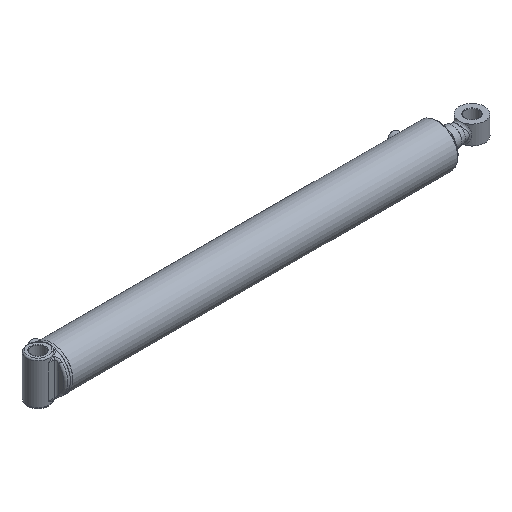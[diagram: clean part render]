
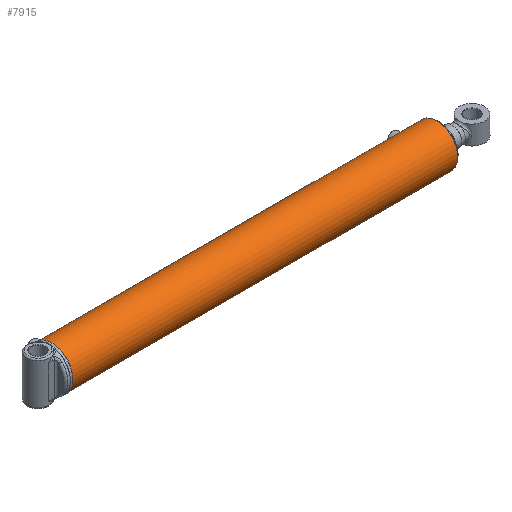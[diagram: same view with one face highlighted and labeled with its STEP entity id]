
A CAD part, isometric view. The second image highlights one B-rep face of the part: STEP entity #7915.
In plain terms, the highlighted cylindrical face has radius 49.212 mm (diameter 98.425 mm), a full revolution.
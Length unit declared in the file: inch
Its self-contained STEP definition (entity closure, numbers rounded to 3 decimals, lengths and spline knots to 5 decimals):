
#653=B_SPLINE_CURVE_WITH_KNOTS('',3,(#11899,#11900,#11901,#11902,#11903,
#11904,#11905,#11906,#11907,#11908),.UNSPECIFIED.,.F.,.F.,(4,2,2,2,4),(0.,
0.17952,0.35904,0.53855,0.71807),
 .UNSPECIFIED.);
#654=B_SPLINE_CURVE_WITH_KNOTS('',3,(#11909,#11910,#11911,#11912,#11913,
#11914,#11915,#11916,#11917,#11918,#11919,#11920,#11921,#11922,#11923,#11924,
#11925,#11926,#11927,#11928,#11929,#11930,#11931,#11932,#11933,#11934),
 .UNSPECIFIED.,.F.,.F.,(4,2,2,2,2,2,2,2,2,2,2,2,4),(0.71807,0.89759,
1.07711,1.25662,1.43614,1.61566,1.79518,
1.97469,2.15421,2.33373,2.51325,2.69276,
2.87228),.UNSPECIFIED.);
#655=B_SPLINE_CURVE_WITH_KNOTS('',3,(#11939,#11940,#11941,#11942,#11943,
#11944,#11945,#11946,#11947,#11948),.UNSPECIFIED.,.F.,.F.,(4,2,2,2,4),(0.,
0.17952,0.35904,0.53855,0.71807),
 .UNSPECIFIED.);
#656=B_SPLINE_CURVE_WITH_KNOTS('',3,(#11949,#11950,#11951,#11952,#11953,
#11954,#11955,#11956,#11957,#11958,#11959,#11960,#11961,#11962,#11963,#11964,
#11965,#11966,#11967,#11968,#11969,#11970,#11971,#11972,#11973,#11974),
 .UNSPECIFIED.,.F.,.F.,(4,2,2,2,2,2,2,2,2,2,2,2,4),(0.71807,0.89759,
1.07711,1.25662,1.43614,1.61566,1.79518,
1.97469,2.15421,2.33373,2.51325,2.69276,
2.87228),.UNSPECIFIED.);
#962=FACE_BOUND('',#2484,.T.);
#963=FACE_BOUND('',#2485,.T.);
#1244=LINE('',#12002,#1570);
#1570=VECTOR('',#9736,1.9375);
#1893=CYLINDRICAL_SURFACE('',#8765,1.9375);
#1987=FACE_OUTER_BOUND('',#2483,.T.);
#2483=EDGE_LOOP('',(#5553,#5554,#5555,#5556,#5557,#5558));
#2484=EDGE_LOOP('',(#5559,#5560));
#2485=EDGE_LOOP('',(#5561,#5562));
#3065=CIRCLE('',#8762,1.9375);
#3067=CIRCLE('',#8764,1.9375);
#3068=CIRCLE('',#8766,1.9375);
#3069=CIRCLE('',#8767,1.9375);
#3547=VERTEX_POINT('',#11896);
#3548=VERTEX_POINT('',#11898);
#3549=VERTEX_POINT('',#11936);
#3550=VERTEX_POINT('',#11938);
#3557=VERTEX_POINT('',#11995);
#3558=VERTEX_POINT('',#11996);
#3559=VERTEX_POINT('',#12001);
#3560=VERTEX_POINT('',#12003);
#4319=EDGE_CURVE('',#3548,#3547,#653,.T.);
#4320=EDGE_CURVE('',#3547,#3548,#654,.T.);
#4322=EDGE_CURVE('',#3550,#3549,#655,.T.);
#4323=EDGE_CURVE('',#3549,#3550,#656,.T.);
#4333=EDGE_CURVE('',#3557,#3558,#3065,.T.);
#4335=EDGE_CURVE('',#3558,#3557,#3067,.T.);
#4336=EDGE_CURVE('',#3557,#3559,#1244,.T.);
#4337=EDGE_CURVE('',#3560,#3559,#3068,.T.);
#4338=EDGE_CURVE('',#3559,#3560,#3069,.T.);
#5553=ORIENTED_EDGE('',*,*,#4333,.F.);
#5554=ORIENTED_EDGE('',*,*,#4336,.T.);
#5555=ORIENTED_EDGE('',*,*,#4337,.F.);
#5556=ORIENTED_EDGE('',*,*,#4338,.F.);
#5557=ORIENTED_EDGE('',*,*,#4336,.F.);
#5558=ORIENTED_EDGE('',*,*,#4335,.F.);
#5559=ORIENTED_EDGE('',*,*,#4319,.T.);
#5560=ORIENTED_EDGE('',*,*,#4320,.T.);
#5561=ORIENTED_EDGE('',*,*,#4322,.T.);
#5562=ORIENTED_EDGE('',*,*,#4323,.T.);
#7915=ADVANCED_FACE('',(#1987,#962,#963),#1893,.T.);
#8762=AXIS2_PLACEMENT_3D('',#11997,#9728,#9729);
#8764=AXIS2_PLACEMENT_3D('',#11999,#9732,#9733);
#8765=AXIS2_PLACEMENT_3D('',#12000,#9734,#9735);
#8766=AXIS2_PLACEMENT_3D('',#12004,#9737,#9738);
#8767=AXIS2_PLACEMENT_3D('',#12005,#9739,#9740);
#9728=DIRECTION('center_axis',(1.,0.,0.));
#9729=DIRECTION('ref_axis',(0.,-1.,0.));
#9732=DIRECTION('center_axis',(1.,0.,0.));
#9733=DIRECTION('ref_axis',(0.,-1.,0.));
#9734=DIRECTION('center_axis',(1.,0.,0.));
#9735=DIRECTION('ref_axis',(0.,-1.,0.));
#9736=DIRECTION('',(-1.,0.,0.));
#9737=DIRECTION('center_axis',(-1.,0.,0.));
#9738=DIRECTION('ref_axis',(0.,-1.,0.));
#9739=DIRECTION('center_axis',(-1.,0.,0.));
#9740=DIRECTION('ref_axis',(0.,-1.,0.));
#11896=CARTESIAN_POINT('',(0.7225,0.,1.9375));
#11898=CARTESIAN_POINT('',(0.91,-0.1875,1.92841));
#11899=CARTESIAN_POINT('Ctrl Pts',(0.91,-0.1875,1.92841));
#11900=CARTESIAN_POINT('Ctrl Pts',(0.88644,-0.1875,1.92841));
#11901=CARTESIAN_POINT('Ctrl Pts',(0.86132,-0.18279,
1.92888));
#11902=CARTESIAN_POINT('Ctrl Pts',(0.81513,-0.16365,
1.9306));
#11903=CARTESIAN_POINT('Ctrl Pts',(0.79406,-0.14922,
1.93182));
#11904=CARTESIAN_POINT('Ctrl Pts',(0.76078,-0.11594,
1.9341));
#11905=CARTESIAN_POINT('Ctrl Pts',(0.74635,-0.09487,
1.93531));
#11906=CARTESIAN_POINT('Ctrl Pts',(0.72721,-0.04868,
1.93703));
#11907=CARTESIAN_POINT('Ctrl Pts',(0.7225,-0.02356,1.9375));
#11908=CARTESIAN_POINT('Ctrl Pts',(0.7225,0.,1.9375));
#11909=CARTESIAN_POINT('Ctrl Pts',(0.7225,0.,1.9375));
#11910=CARTESIAN_POINT('Ctrl Pts',(0.7225,0.02356,1.9375));
#11911=CARTESIAN_POINT('Ctrl Pts',(0.72721,0.04868,
1.93703));
#11912=CARTESIAN_POINT('Ctrl Pts',(0.74635,0.09487,
1.93531));
#11913=CARTESIAN_POINT('Ctrl Pts',(0.76078,0.11594,
1.9341));
#11914=CARTESIAN_POINT('Ctrl Pts',(0.79406,0.14922,
1.93182));
#11915=CARTESIAN_POINT('Ctrl Pts',(0.81513,0.16365,
1.9306));
#11916=CARTESIAN_POINT('Ctrl Pts',(0.86132,0.18279,
1.92888));
#11917=CARTESIAN_POINT('Ctrl Pts',(0.88644,0.1875,1.92841));
#11918=CARTESIAN_POINT('Ctrl Pts',(0.93356,0.1875,1.92841));
#11919=CARTESIAN_POINT('Ctrl Pts',(0.95868,0.18279,
1.92888));
#11920=CARTESIAN_POINT('Ctrl Pts',(1.00487,0.16365,1.9306));
#11921=CARTESIAN_POINT('Ctrl Pts',(1.02594,0.14922,1.93182));
#11922=CARTESIAN_POINT('Ctrl Pts',(1.05922,0.11594,1.9341));
#11923=CARTESIAN_POINT('Ctrl Pts',(1.07365,0.09487,
1.93531));
#11924=CARTESIAN_POINT('Ctrl Pts',(1.09279,0.04868,
1.93703));
#11925=CARTESIAN_POINT('Ctrl Pts',(1.0975,0.02356,1.9375));
#11926=CARTESIAN_POINT('Ctrl Pts',(1.0975,-0.02356,1.9375));
#11927=CARTESIAN_POINT('Ctrl Pts',(1.09279,-0.04868,
1.93703));
#11928=CARTESIAN_POINT('Ctrl Pts',(1.07365,-0.09487,
1.93531));
#11929=CARTESIAN_POINT('Ctrl Pts',(1.05922,-0.11594,
1.9341));
#11930=CARTESIAN_POINT('Ctrl Pts',(1.02594,-0.14922,
1.93182));
#11931=CARTESIAN_POINT('Ctrl Pts',(1.00487,-0.16365,
1.9306));
#11932=CARTESIAN_POINT('Ctrl Pts',(0.95868,-0.18279,
1.92888));
#11933=CARTESIAN_POINT('Ctrl Pts',(0.93356,-0.1875,1.92841));
#11934=CARTESIAN_POINT('Ctrl Pts',(0.91,-0.1875,1.92841));
#11936=CARTESIAN_POINT('',(33.9425,0.,1.9375));
#11938=CARTESIAN_POINT('',(34.13,-0.1875,1.92841));
#11939=CARTESIAN_POINT('Ctrl Pts',(34.13,-0.1875,1.92841));
#11940=CARTESIAN_POINT('Ctrl Pts',(34.10644,-0.1875,
1.92841));
#11941=CARTESIAN_POINT('Ctrl Pts',(34.08132,-0.18279,
1.92888));
#11942=CARTESIAN_POINT('Ctrl Pts',(34.03513,-0.16365,1.9306));
#11943=CARTESIAN_POINT('Ctrl Pts',(34.01406,-0.14922,1.93182));
#11944=CARTESIAN_POINT('Ctrl Pts',(33.98078,-0.11594,
1.9341));
#11945=CARTESIAN_POINT('Ctrl Pts',(33.96635,-0.09487,
1.93531));
#11946=CARTESIAN_POINT('Ctrl Pts',(33.94721,-0.04868,
1.93703));
#11947=CARTESIAN_POINT('Ctrl Pts',(33.9425,-0.02356,1.9375));
#11948=CARTESIAN_POINT('Ctrl Pts',(33.9425,0.,1.9375));
#11949=CARTESIAN_POINT('Ctrl Pts',(33.9425,0.,1.9375));
#11950=CARTESIAN_POINT('Ctrl Pts',(33.9425,0.02356,1.9375));
#11951=CARTESIAN_POINT('Ctrl Pts',(33.94721,0.04868,
1.93703));
#11952=CARTESIAN_POINT('Ctrl Pts',(33.96635,0.09487,1.93531));
#11953=CARTESIAN_POINT('Ctrl Pts',(33.98078,0.11594,1.9341));
#11954=CARTESIAN_POINT('Ctrl Pts',(34.01406,0.14922,1.93182));
#11955=CARTESIAN_POINT('Ctrl Pts',(34.03513,0.16365,1.9306));
#11956=CARTESIAN_POINT('Ctrl Pts',(34.08132,0.18279,1.92888));
#11957=CARTESIAN_POINT('Ctrl Pts',(34.10644,0.1875,1.92841));
#11958=CARTESIAN_POINT('Ctrl Pts',(34.15356,0.1875,1.92841));
#11959=CARTESIAN_POINT('Ctrl Pts',(34.17868,0.18279,1.92888));
#11960=CARTESIAN_POINT('Ctrl Pts',(34.22487,0.16365,1.9306));
#11961=CARTESIAN_POINT('Ctrl Pts',(34.24594,0.14922,1.93182));
#11962=CARTESIAN_POINT('Ctrl Pts',(34.27922,0.11594,1.9341));
#11963=CARTESIAN_POINT('Ctrl Pts',(34.29365,0.09487,1.93531));
#11964=CARTESIAN_POINT('Ctrl Pts',(34.31279,0.04868,
1.93703));
#11965=CARTESIAN_POINT('Ctrl Pts',(34.3175,0.02356,1.9375));
#11966=CARTESIAN_POINT('Ctrl Pts',(34.3175,-0.02356,1.9375));
#11967=CARTESIAN_POINT('Ctrl Pts',(34.31279,-0.04868,
1.93703));
#11968=CARTESIAN_POINT('Ctrl Pts',(34.29365,-0.09487,
1.93531));
#11969=CARTESIAN_POINT('Ctrl Pts',(34.27922,-0.11594,
1.9341));
#11970=CARTESIAN_POINT('Ctrl Pts',(34.24594,-0.14922,1.93182));
#11971=CARTESIAN_POINT('Ctrl Pts',(34.22487,-0.16365,1.9306));
#11972=CARTESIAN_POINT('Ctrl Pts',(34.17868,-0.18279,
1.92888));
#11973=CARTESIAN_POINT('Ctrl Pts',(34.15356,-0.1875,
1.92841));
#11974=CARTESIAN_POINT('Ctrl Pts',(34.13,-0.1875,1.92841));
#11995=CARTESIAN_POINT('',(35.56,1.9375,0.));
#11996=CARTESIAN_POINT('',(35.56,0.,-1.9375));
#11997=CARTESIAN_POINT('Origin',(35.56,0.,0.));
#11999=CARTESIAN_POINT('Origin',(35.56,0.,0.));
#12000=CARTESIAN_POINT('Origin',(0.,0.,0.));
#12001=CARTESIAN_POINT('',(0.09382,1.9375,0.));
#12002=CARTESIAN_POINT('',(0.,1.9375,0.));
#12003=CARTESIAN_POINT('',(0.09382,0.,1.9375));
#12004=CARTESIAN_POINT('Origin',(0.09382,0.,0.));
#12005=CARTESIAN_POINT('Origin',(0.09382,0.,0.));
